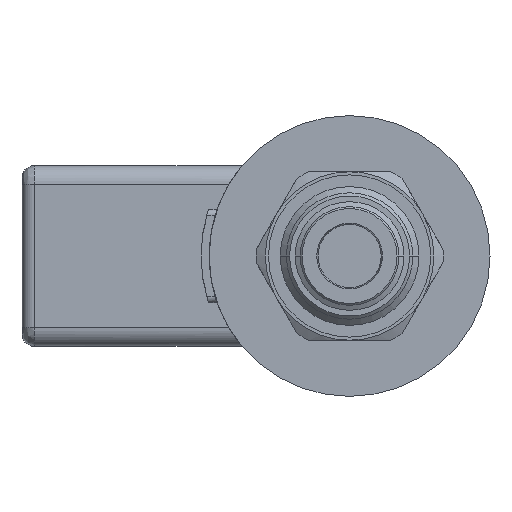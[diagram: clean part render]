
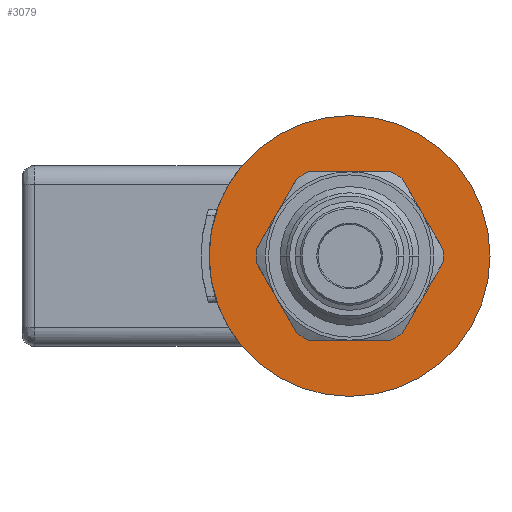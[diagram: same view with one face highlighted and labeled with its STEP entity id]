
A CAD part, left-side view. The second image highlights one B-rep face of the part: STEP entity #3079.
In plain terms, the highlighted planar face has unit normal (-1, 0, 0).
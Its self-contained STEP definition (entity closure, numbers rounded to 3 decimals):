
#368=CARTESIAN_POINT('',(10.,0.,0.));
#369=DIRECTION('',(1.,0.,0.));
#370=DIRECTION('',(0.,1.,0.));
#371=AXIS2_PLACEMENT_3D('',#368,#369,#370);
#373=CARTESIAN_POINT('',(10.,0.,0.));
#374=DIRECTION('',(1.,0.,0.));
#375=DIRECTION('',(0.,-1.,0.));
#376=AXIS2_PLACEMENT_3D('',#373,#374,#375);
#378=CARTESIAN_POINT('',(10.,0.,0.));
#379=DIRECTION('',(-1.,0.,0.));
#380=DIRECTION('',(0.,0.866,0.5));
#381=AXIS2_PLACEMENT_3D('',#378,#379,#380);
#383=CARTESIAN_POINT('',(10.,0.,0.));
#384=DIRECTION('',(-1.,0.,0.));
#385=DIRECTION('',(0.,1.,0.));
#386=AXIS2_PLACEMENT_3D('',#383,#384,#385);
#388=CARTESIAN_POINT('',(10.,0.,0.));
#389=DIRECTION('',(-1.,0.,0.));
#390=DIRECTION('',(0.,0.866,-0.5));
#391=AXIS2_PLACEMENT_3D('',#388,#389,#390);
#393=CARTESIAN_POINT('',(10.,0.,0.));
#394=DIRECTION('',(-1.,0.,0.));
#395=DIRECTION('',(0.,0.,-1.));
#396=AXIS2_PLACEMENT_3D('',#393,#394,#395);
#398=CARTESIAN_POINT('',(10.,0.,0.));
#399=DIRECTION('',(-1.,0.,0.));
#400=DIRECTION('',(0.,-0.866,-0.5));
#401=AXIS2_PLACEMENT_3D('',#398,#399,#400);
#403=CARTESIAN_POINT('',(10.,0.,0.));
#404=DIRECTION('',(-1.,0.,0.));
#405=DIRECTION('',(0.,-1.,0.));
#406=AXIS2_PLACEMENT_3D('',#403,#404,#405);
#408=CARTESIAN_POINT('',(10.,0.,0.));
#409=DIRECTION('',(-1.,0.,0.));
#410=DIRECTION('',(0.,-0.866,0.5));
#411=AXIS2_PLACEMENT_3D('',#408,#409,#410);
#413=CARTESIAN_POINT('',(10.,0.,0.));
#414=DIRECTION('',(-1.,0.,0.));
#415=DIRECTION('',(0.,0.,1.));
#416=AXIS2_PLACEMENT_3D('',#413,#414,#415);
#461=CARTESIAN_POINT('',(10.,11.691,6.75));
#463=CARTESIAN_POINT('',(10.,0.,13.5));
#565=CARTESIAN_POINT('',(10.,-11.691,-6.75));
#2473=VERTEX_POINT('',#463);
#2476=CARTESIAN_POINT('',(10.,-11.691,6.75));
#2477=VERTEX_POINT('',#2476);
#2480=VERTEX_POINT('',#461);
#2482=VERTEX_POINT('',#565);
#2483=CARTESIAN_POINT('',(10.,0.,-13.5));
#2484=VERTEX_POINT('',#2483);
#2487=CARTESIAN_POINT('',(10.,11.691,-6.75));
#2488=VERTEX_POINT('',#2487);
#2490=CARTESIAN_POINT('',(10.,13.5,0.));
#2491=VERTEX_POINT('',#2490);
#2497=CARTESIAN_POINT('',(10.,22.5,0.));
#2498=CARTESIAN_POINT('',(10.,-22.5,0.));
#2499=VERTEX_POINT('',#2497);
#2500=VERTEX_POINT('',#2498);
#2501=CARTESIAN_POINT('',(10.,-13.5,0.));
#2502=VERTEX_POINT('',#2501);
#3052=CARTESIAN_POINT('',(10.,0.,0.));
#3053=DIRECTION('',(1.,0.,0.));
#3054=DIRECTION('',(0.,-1.,0.));
#3055=AXIS2_PLACEMENT_3D('',#3052,#3053,#3054);
#3056=PLANE('',#3055);
#3057=ORIENTED_EDGE('',*,*,#2941,.T.);
#3058=ORIENTED_EDGE('',*,*,#3034,.T.);
#3059=EDGE_LOOP('',(#3057,#3058));
#3060=FACE_OUTER_BOUND('',#3059,.F.);
#3062=ORIENTED_EDGE('',*,*,#3061,.T.);
#3064=ORIENTED_EDGE('',*,*,#3063,.T.);
#3066=ORIENTED_EDGE('',*,*,#3065,.T.);
#3068=ORIENTED_EDGE('',*,*,#3067,.T.);
#3070=ORIENTED_EDGE('',*,*,#3069,.T.);
#3072=ORIENTED_EDGE('',*,*,#3071,.T.);
#3074=ORIENTED_EDGE('',*,*,#3073,.T.);
#3076=ORIENTED_EDGE('',*,*,#3075,.T.);
#3077=EDGE_LOOP('',(#3062,#3064,#3066,#3068,#3070,#3072,#3074,#3076));
#3078=FACE_BOUND('',#3077,.F.);
#372=CIRCLE('',#371,22.5);
#377=CIRCLE('',#376,22.5);
#382=CIRCLE('',#381,13.5);
#387=CIRCLE('',#386,13.5);
#392=CIRCLE('',#391,13.5);
#397=CIRCLE('',#396,13.5);
#402=CIRCLE('',#401,13.5);
#407=CIRCLE('',#406,13.5);
#412=CIRCLE('',#411,13.5);
#417=CIRCLE('',#416,13.5);
#2941=EDGE_CURVE('',#2499,#2500,#372,.T.);
#3034=EDGE_CURVE('',#2500,#2499,#377,.T.);
#3061=EDGE_CURVE('',#2480,#2491,#382,.T.);
#3063=EDGE_CURVE('',#2491,#2488,#387,.T.);
#3065=EDGE_CURVE('',#2488,#2484,#392,.T.);
#3067=EDGE_CURVE('',#2484,#2482,#397,.T.);
#3069=EDGE_CURVE('',#2482,#2502,#402,.T.);
#3071=EDGE_CURVE('',#2502,#2477,#407,.T.);
#3073=EDGE_CURVE('',#2477,#2473,#412,.T.);
#3075=EDGE_CURVE('',#2473,#2480,#417,.T.);
#3079=ADVANCED_FACE('',(#3060,#3078),#3056,.F.);
